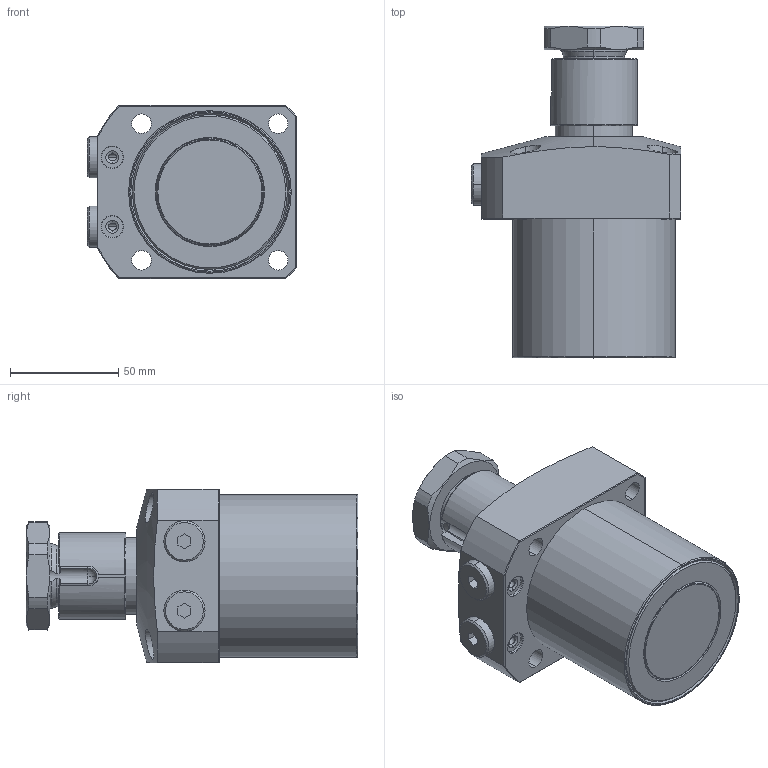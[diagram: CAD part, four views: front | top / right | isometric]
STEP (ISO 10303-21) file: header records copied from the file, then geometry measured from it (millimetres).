
FILE_DESCRIPTION (( 'STEP AP203' ), '1' );
FILE_NAME ('20630-CR.step', '2019-06-24T03:05:31', ( '微软用户' ), ( '微软中国' ), 'SwSTEP 2.0', 'SolidWorks 2014', '' );
FILE_SCHEMA (( 'CONFIG_CONTROL_DESIGN' ));
Length unit declared in the file: millimetre
Products named in the file (7): 20630-01^20630-CR; 20630-02^20630-CR; 20630-03^20630-CR; 20630-04^20630-CR; 20630-05^20630-CR; 20630-C-P-4^20630-CR; 20630-CR
Assembly tree (7 placements, depth 2):
  20630-CR
    20630-01^20630-CR
    20630-02^20630-CR
    20630-03^20630-CR
    20630-04^20630-CR
    20630-05^20630-CR
    20630-C-P-4^20630-CR  x2
Bounding box: 96.5 x 153 x 80 mm (x, y, z)
Volume: 607739.9 mm3; surface area: 75801.5 mm2
Topology: 7 solids, 7 shells, 222 faces, 521 edges, 329 vertices
Faces by surface type: plane 78, cylinder 75, cone 49, torus 18, sphere 2
Entity records: 7676 total; most frequent: CARTESIAN_POINT 2085, DIRECTION 1043, ORIENTED_EDGE 982, EDGE_CURVE 491, AXIS2_PLACEMENT_3D 425, VERTEX_POINT 311, EDGE_LOOP 240, ADVANCED_FACE 209
